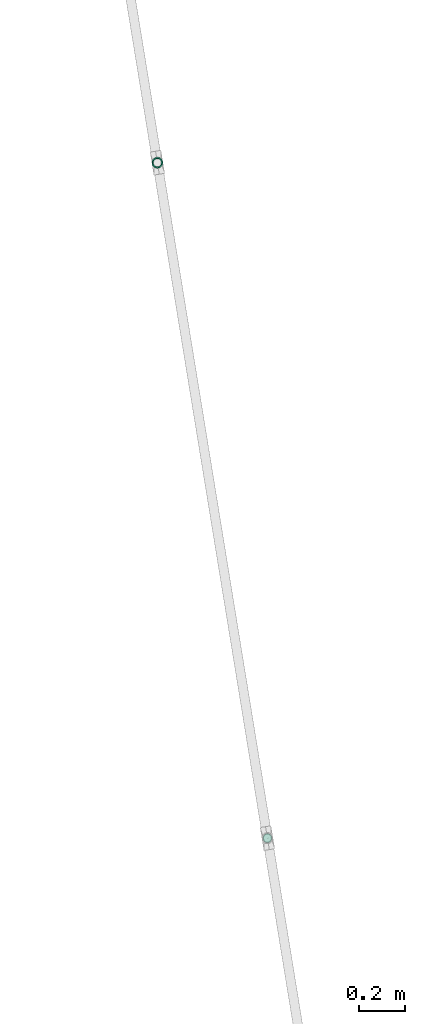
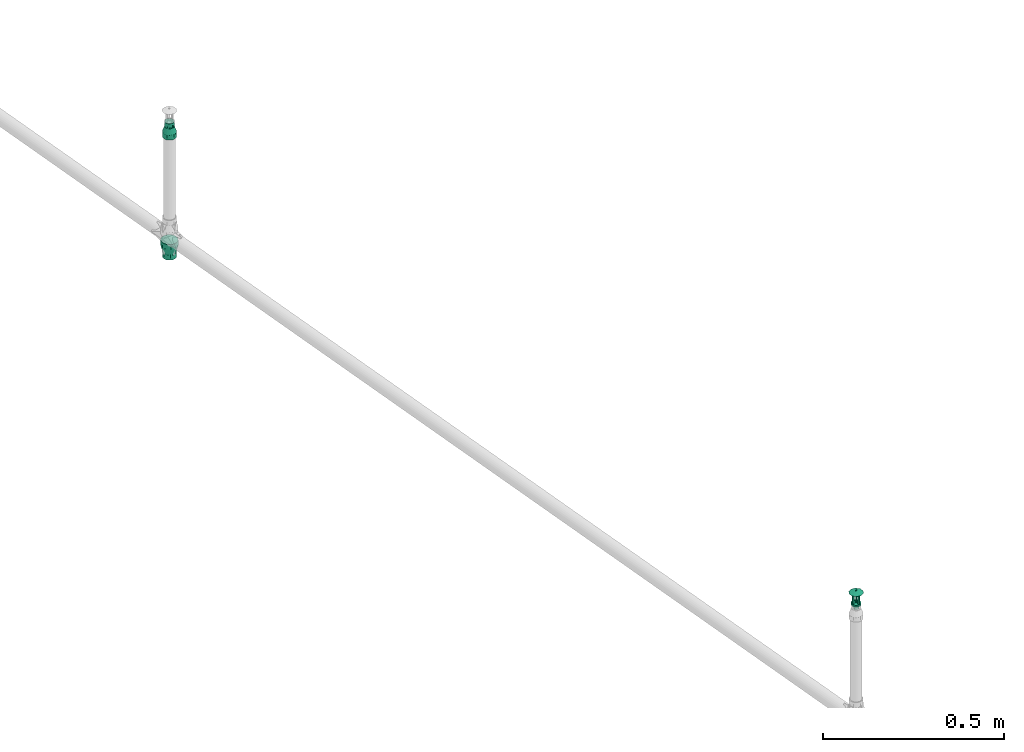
# One storey, part 36 of 56: 2 flow fittings, 1 flow terminal.
"""IFC2X3 building model written with IfcOpenShell, lengths in millimetres."""

from ifc_helpers import new_model, entity, si_unit, converted_unit, derived_unit, direction, frame, origin, origin_with_axes, place, context, subcontext, project, spatial, faceted_brep, source, transform, mapped, material, type_object, element, save


model = new_model("IFC2X3")

# Units and contexts
model_context = context("Model", 3, precision=0.01, world=origin(), true_north=direction((6.12323399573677e-17, 1.0)))
plan_context = context("Plan", 3, precision=1e-05, world=origin_with_axes())
body_context = subcontext(model_context, "Body", "Model", "MODEL_VIEW")
ifc_project = project(units=[converted_unit("PLANEANGLEUNIT", "DEGREE", entity("IfcPositiveLengthMeasure", 0.0174532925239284), si_unit("PLANEANGLEUNIT", "RADIAN"), dimensions=[0, 0, 0, 0, 0, 0, 0]), si_unit("AREAUNIT", "SQUARE_METRE"), si_unit("LENGTHUNIT", "METRE", prefix="MILLI"), si_unit("MASSUNIT", "GRAM", prefix="KILO"), si_unit("POWERUNIT", "WATT"), si_unit("PRESSUREUNIT", "PASCAL", prefix="KILO"), si_unit("FORCEUNIT", "NEWTON", prefix="KILO"), si_unit("ELECTRICVOLTAGEUNIT", "VOLT"), si_unit("ELECTRICCURRENTUNIT", "AMPERE"), si_unit("THERMODYNAMICTEMPERATUREUNIT", "DEGREE_CELSIUS"), si_unit("TIMEUNIT", "SECOND"), si_unit("VOLUMEUNIT", "CUBIC_METRE"), derived_unit("LINEARVELOCITYUNIT", [(si_unit("LENGTHUNIT", "METRE"), 1), (si_unit("TIMEUNIT", "SECOND"), -1)]), derived_unit("VOLUMETRICFLOWRATEUNIT", [(si_unit("VOLUMEUNIT", "CUBIC_METRE"), 1), (si_unit("TIMEUNIT", "SECOND"), -1)]), derived_unit("THERMALTRANSMITTANCEUNIT", [(si_unit("POWERUNIT", "WATT"), 1), (si_unit("THERMODYNAMICTEMPERATUREUNIT", "KELVIN"), -1), (si_unit("AREAUNIT", "SQUARE_METRE"), -1)]), derived_unit("SOUNDPRESSUREUNIT", [(si_unit("PRESSUREUNIT", "PASCAL"), 1)])], contexts=[model_context, plan_context])

# Site, building, storey
site_placement = place(None, frame((-3.09682673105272e-06, 1.93776733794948e-05, 0.0), z_axis=(0.0, 0.0, 1.0), x_axis=(-0.160806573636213, 0.986985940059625, 0.0)))
site = spatial("IfcSite", under=ifc_project, at=site_placement, Name="Default", CompositionType="ELEMENT")
building_placement = place(site_placement, frame((0.0, 0.0, 0.0), z_axis=(0.0, 0.0, 1.0), x_axis=(1.0, -2.77555756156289e-17, 0.0)))
building = spatial("IfcBuilding", under=site, at=building_placement, Name="Bygning (endres i Project Information)", CompositionType="ELEMENT")
storey_placement = place(building_placement, frame((0.0, 0.0, 51360.0000000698), z_axis=(0.0, 0.0, 1.0), x_axis=(1.0, -2.77555756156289e-17, 0.0)))
storey = spatial("IfcBuildingStorey", under=building, at=storey_placement, Name="H01-Nivå D+0,36", CompositionType="ELEMENT", Elevation=51360.0000000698)

# Flow fittings
ifc_material = material(Name="3320.001")
pipe_fitting_type_1 = type_object("IfcPipeFittingType", Name="RS_53_PIF_UN_Reducing-Socket-EN10241_MC_gen:RS_53_PIF_UN_Reducing-Socket-EN10241_MC_gen", PredefinedType="NOTDEFINED", material=ifc_material)
shared_shape_1 = source(origin(), body_context, "Body", "Brep", [
    faceted_brep([(0.0, 5.11167614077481, 19.0770350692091), (0.0, 9.87500000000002, 17.1040017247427), (0.0, 13.9653589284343, 13.9653589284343), (0.0, 17.1040017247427, 9.87499999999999), (0.0, 19.0770350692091, 5.11167614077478), (0.0, 19.75, 0.0), (0.0, 19.0770350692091, -5.1116761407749), (0.0, 17.1040017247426, -9.8750000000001), (0.0, 13.9653589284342, -13.9653589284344), (0.0, 9.87499999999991, -17.1040017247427), (0.0, 5.11167614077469, -19.0770350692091), (0.0, 0.0, -19.75), (0.0, -5.11167614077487, -19.0770350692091), (0.0, -9.87500000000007, -17.1040017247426), (0.0, -13.9653589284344, -13.9653589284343), (0.0, -17.1040017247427, -9.87499999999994), (0.0, -19.0770350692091, -5.11167614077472), (0.0, -19.75, 0.0), (0.0, -19.0770350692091, 5.11167614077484), (0.0, -17.1040017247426, 9.87500000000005), (0.0, -13.9653589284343, 13.9653589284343), (0.0, -9.87499999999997, 17.1040017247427), (0.0, -5.11167614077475, 19.0770350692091), (0.0, 0.0, 19.75), (17.0, -6.65118285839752, -18.277344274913), (17.0, -15.1289479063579, -12.6955675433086), (17.0, -16.8438814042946, -9.72538978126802), (17.0, -18.5588149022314, -6.7552120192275), (17.0, -9.87413131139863, -17.1045032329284), (17.0, -12.5015396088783, -14.9000353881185), (17.0, -19.1544074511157, -3.37760600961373), (17.0, -3.42823440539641, -19.4501853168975), (17.0, 3.43119786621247, -19.4496627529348), (17.0, 0.0014817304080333, -19.4499240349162), (17.0, -19.75, 0.0), (17.0, 6.65396758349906, -18.2763306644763), (17.0, 9.87673730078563, -17.1029985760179), (17.0, 18.5598439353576, -6.75238425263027), (17.0, 16.8453630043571, -9.7228232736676), (17.0, 15.1308820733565, -12.6932622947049), (17.0, 12.5038096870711, -14.8981304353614), (17.0, 19.75, 0.0), (17.0, 15.1308820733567, 12.6932622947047), (17.0, 16.8453630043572, 9.72282327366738), (17.0, 18.5598439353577, 6.75238425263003), (17.0, 9.87673730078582, 17.1029985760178), (17.0, 12.5038096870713, 14.8981304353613), (17.0, 3.43119786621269, 19.4496627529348), (17.0, 6.65396758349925, 18.2763306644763), (17.0, -3.4282344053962, 19.4501853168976), (17.0, 0.00148173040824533, 19.4499240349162), (17.0, -15.1289479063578, 12.6955675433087), (17.0, -6.65118285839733, 18.277344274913), (17.0, -9.87413131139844, 17.1045032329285), (17.0, -12.5015396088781, 14.9000353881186), (17.0, -19.1544074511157, 3.37760600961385), (17.0, -18.5588149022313, 6.75521201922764), (17.0, -16.8438814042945, 9.72538978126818), (34.0, 13.5000000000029, 0.0), (34.0, 12.6868795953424, -4.61444320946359), (34.0, -4.54589529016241, -12.4935366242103), (34.0, -2.34276817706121, -13.2951659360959), (34.0, 6.75195505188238, -11.6902139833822), (34.0, 0.00166747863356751, -13.2948718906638), (34.0, 2.34610313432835, -13.2945778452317), (34.0, 10.3432928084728, -8.67561489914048), (34.0, 8.54762393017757, -10.1829144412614), (34.0, 4.54902909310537, -12.492395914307), (34.0, 11.5150862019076, -6.64502905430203), (34.0, -6.74902240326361, -11.6919073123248), (34.0, -13.4999999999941, 0.0), (34.0, -13.0928608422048, -2.30881275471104), (34.0, -10.3411162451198, -8.6782091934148), (34.0, -8.54506932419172, -10.1850582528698), (34.0, -12.6857216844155, -4.61762550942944), (34.0, -11.5134189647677, -6.64791735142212), (34.0, -13.0928608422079, 2.30881275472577), (34.0, -12.6857216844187, 4.6176255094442), (34.0, 2.34610313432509, 13.2945778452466), (34.0, 4.54902909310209, 12.4923959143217), (34.0, -10.3411162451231, 8.67820919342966), (34.0, 0.00166747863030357, 13.2948718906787), (34.0, -6.74902240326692, 11.6919073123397), (34.0, -8.54506932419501, 10.1850582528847), (34.0, -11.5134189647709, 6.64791735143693), (34.0, -2.34276817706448, 13.2951659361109), (34.0, -4.5458952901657, 12.4935366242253), (34.0, 12.6868795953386, 4.61444320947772), (34.0, 11.5150862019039, 6.64502905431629), (34.0, 10.3432928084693, 8.67561489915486), (34.0, 6.7519550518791, 11.6902139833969), (34.0, 8.54762393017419, 10.1829144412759), (51.0, 3.49405710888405, -13.0399986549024), (51.0, 6.75000000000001, -11.6913429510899), (51.0, 9.5459415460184, -9.54594154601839), (51.0, 11.6913429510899, -6.74999999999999), (51.0, 13.0399986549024, -3.49405710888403), (51.0, 13.5, 0.0), (51.0, 13.0399986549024, 3.49405710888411), (51.0, 11.6913429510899, 6.75000000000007), (51.0, 9.54594154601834, 9.54594154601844), (51.0, 6.74999999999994, 11.69134295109), (51.0, 3.49405710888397, 13.0399986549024), (51.0, 0.0, 13.5), (51.0, -3.49405710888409, 13.0399986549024), (51.0, -6.75000000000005, 11.6913429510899), (51.0, -9.54594154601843, 9.54594154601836), (51.0, -11.6913429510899, 6.74999999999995), (51.0, -13.0399986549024, 3.49405710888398), (51.0, -13.5, 0.0), (51.0, -13.0399986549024, -3.49405710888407), (51.0, -11.6913429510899, -6.75000000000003), (51.0, -9.54594154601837, -9.54594154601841), (51.0, -6.74999999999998, -11.6913429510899), (51.0, -3.49405710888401, -13.0399986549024), (51.0, 0.0, -13.5)], [[[0, 1, 2, 3, 4, 5, 6, 7, 8, 9, 10, 11, 12, 13, 14, 15, 16, 17, 18, 19, 20, 21, 22, 23]], [[24, 13, 12]], [[15, 14, 25]], [[15, 25, 26, 27]], [[28, 29, 13]], [[16, 27, 30]], [[30, 17, 16]], [[15, 27, 16]], [[12, 31, 24]], [[25, 14, 29]], [[11, 32, 33, 31]], [[24, 28, 13]], [[13, 29, 14]], [[30, 34, 17]], [[32, 11, 10]], [[35, 9, 36]], [[7, 37, 38, 39]], [[9, 35, 10]], [[7, 6, 37]], [[8, 39, 40]], [[32, 10, 35]], [[7, 39, 8]], [[40, 36, 9]], [[6, 41, 37]], [[6, 5, 41]], [[11, 31, 12]], [[40, 9, 8]], [[41, 5, 4]], [[3, 2, 42]], [[3, 42, 43, 44]], [[45, 46, 1]], [[44, 41, 4]], [[0, 47, 48]], [[42, 2, 46]], [[23, 49, 50, 47]], [[1, 46, 2]], [[49, 23, 22]], [[19, 51, 20]], [[52, 21, 53]], [[3, 44, 4]], [[48, 45, 1]], [[54, 53, 21]], [[17, 34, 55]], [[21, 52, 22]], [[20, 51, 54]], [[49, 22, 52]], [[48, 1, 0]], [[17, 55, 18]], [[56, 19, 18]], [[18, 55, 56]], [[54, 21, 20]], [[57, 51, 19, 56]], [[23, 47, 0]], [[41, 58, 59]], [[60, 31, 61]], [[40, 62, 36]], [[63, 32, 64]], [[65, 39, 38]], [[64, 32, 35]], [[61, 33, 63]], [[37, 41, 59]], [[62, 40, 66]], [[40, 39, 66]], [[35, 36, 67]], [[65, 38, 68]], [[37, 68, 38]], [[64, 35, 67]], [[61, 31, 33]], [[69, 28, 24]], [[69, 24, 60]], [[70, 30, 71]], [[72, 29, 73]], [[30, 70, 34]], [[74, 27, 26]], [[68, 37, 59]], [[72, 25, 29]], [[27, 74, 71]], [[31, 60, 24]], [[29, 28, 73]], [[75, 26, 25]], [[67, 36, 62]], [[66, 39, 65]], [[27, 71, 30]], [[74, 26, 75]], [[73, 28, 69]], [[63, 33, 32]], [[75, 25, 72]], [[56, 76, 77]], [[48, 78, 79]], [[54, 51, 80]], [[81, 47, 50]], [[57, 56, 77]], [[52, 53, 82]], [[82, 53, 83]], [[55, 70, 76]], [[70, 55, 34]], [[84, 51, 57]], [[50, 85, 81]], [[56, 55, 76]], [[86, 49, 52]], [[83, 53, 54]], [[81, 78, 47]], [[48, 47, 78]], [[80, 51, 84]], [[49, 85, 50]], [[87, 44, 88]], [[87, 58, 41]], [[43, 42, 89]], [[57, 77, 84]], [[46, 45, 90]], [[85, 49, 86]], [[88, 44, 43]], [[54, 80, 83]], [[91, 42, 46]], [[52, 82, 86]], [[89, 42, 91]], [[87, 41, 44]], [[90, 45, 79]], [[46, 90, 91]], [[79, 45, 48]], [[43, 89, 88]], [[92, 93, 94, 95, 96, 97, 98, 99, 100, 101, 102, 103, 104, 105, 106, 107, 108, 109, 110, 111, 112, 113, 114, 115]], [[58, 97, 96]], [[95, 94, 65]], [[95, 65, 68, 59]], [[62, 66, 93]], [[59, 58, 96]], [[92, 64, 67]], [[65, 94, 66]], [[115, 61, 63, 64]], [[93, 66, 94]], [[67, 93, 92]], [[67, 62, 93]], [[95, 59, 96]], [[114, 61, 115]], [[111, 110, 74]], [[73, 113, 112]], [[109, 71, 110]], [[111, 74, 75, 72]], [[109, 70, 71]], [[60, 61, 114]], [[113, 69, 60]], [[111, 72, 112]], [[113, 60, 114]], [[112, 72, 73]], [[115, 64, 92]], [[71, 74, 110]], [[73, 69, 113]], [[86, 105, 104]], [[107, 106, 80]], [[107, 80, 84, 77]], [[82, 83, 105]], [[108, 77, 76]], [[76, 70, 109]], [[76, 109, 108]], [[104, 85, 86]], [[80, 106, 83]], [[103, 78, 81, 85]], [[91, 101, 100]], [[105, 83, 106]], [[86, 82, 105]], [[78, 103, 102]], [[79, 101, 90]], [[99, 87, 88, 89]], [[101, 79, 102]], [[99, 98, 87]], [[100, 89, 91]], [[78, 102, 79]], [[103, 85, 104]], [[99, 89, 100]], [[98, 58, 87]], [[107, 77, 108]], [[98, 97, 58]], [[91, 90, 101]]]),
])
flow_fitting_1_placement = place(storey_placement, frame((1000236.26325463, -389286.663841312, 3707.99999993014), z_axis=(2.77555756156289e-17, 1.0, 0.0), x_axis=(0.0, 0.0, 1.0)))
element("IfcFlowFitting", 1, at=flow_fitting_1_placement, inside=storey, type_object=pipe_fitting_type_1, material=ifc_material, Name="RS_53_PIF_UN_Reducing-Socket-EN10241_MC_gen:RS_53_PIF_UN_Reducing-Socket-EN10241_MC_gen", ObjectType="RS_53_PIF_UN_Reducing-Socket-EN10241_MC_gen:RS_53_PIF_UN_Reducing-Socket-EN10241_MC_gen", context=body_context, shape_type="MappedRepresentation", body=[
    mapped(shared_shape_1, transform((0.0, 0.0, 0.0), scale=1.0)),
])
pipe_fitting_type_2 = type_object("IfcPipeFittingType", Name="RS_53_PIF_UN_Reducing-Socket-EN10241_MC_gen:RS_53_PIF_UN_Reducing-Socket-EN10241_MC_gen", PredefinedType="NOTDEFINED", material=ifc_material)
shared_shape_2 = source(origin(), body_context, "Body", "Brep", [
    faceted_brep([(0.0, -12.25, 21.2176223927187), (0.0, -6.34106660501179, 23.6651827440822), (0.0, 0.0, 24.5), (0.0, 6.34106660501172, 23.6651827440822), (0.0, 12.25, 21.2176223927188), (0.0, 17.3241161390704, 17.3241161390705), (0.0, 21.2176223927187, 12.2500000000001), (0.0, 23.6651827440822, 6.34106660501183), (0.0, 24.5, 0.0), (0.0, 23.6651827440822, -6.34106660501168), (0.0, 21.2176223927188, -12.2499999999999), (0.0, 17.3241161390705, -17.3241161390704), (0.0, 12.2500000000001, -21.2176223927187), (0.0, 6.34106660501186, -23.6651827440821), (0.0, 0.0, -24.5), (0.0, -6.34106660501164, -23.6651827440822), (0.0, -12.2499999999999, -21.2176223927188), (0.0, -17.3241161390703, -17.3241161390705), (0.0, -21.2176223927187, -12.2500000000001), (0.0, -23.6651827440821, -6.34106660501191), (0.0, -24.5, 0.0), (0.0, -23.6651827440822, 6.34106660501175), (0.0, -21.2176223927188, 12.25), (0.0, -17.3241161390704, 17.3241161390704), (18.6666666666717, 8.25137606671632, -22.6729794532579), (18.6666666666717, 18.7677686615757, -15.7486780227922), (18.6666666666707, 20.8950763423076, -12.0642027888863), (18.6666666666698, 23.0223840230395, -8.37972755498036), (18.6666666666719, 15.5085607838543, -18.4833370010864), (18.6666666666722, 12.2493529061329, -21.2179959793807), (18.6666666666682, 23.7611920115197, -4.18986377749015), (18.6666666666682, 23.7125607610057, -4.46565710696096), (18.6666666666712, 4.25339922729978, -24.1279629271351), (18.6666666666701, -0.00110376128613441, -24.1277682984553), (18.6666666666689, -4.25560674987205, -24.1275736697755), (18.6666666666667, 24.5, 0.0), (18.6666666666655, -12.2512941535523, -21.2168751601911), (18.6666666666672, -8.25345045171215, -22.6722244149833), (18.6666666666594, -20.8961800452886, -12.062290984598), (18.6666666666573, -23.0231506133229, -8.37762113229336), (18.6666666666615, -18.7692094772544, -15.7469608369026), (18.6666666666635, -15.5102518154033, -18.4819179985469), (18.6666666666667, -24.5, 0.0), (18.6666666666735, -18.7692094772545, 15.7469608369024), (18.666666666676, -20.8961800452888, 12.0622909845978), (18.6666666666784, -23.023150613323, 8.3776211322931), (18.6666666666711, -15.5102518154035, 18.4819179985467), (18.6666666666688, -12.2512941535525, 21.216875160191), (18.6666666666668, -8.25345045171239, 22.6722244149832), (18.6666666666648, -4.25560674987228, 24.1275736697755), (18.6666666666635, -0.00110376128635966, 24.1277682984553), (18.6666666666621, 4.25339922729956, 24.1279629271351), (18.6666666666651, 23.7611920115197, 4.1898637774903), (18.666666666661, 12.2493529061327, 21.2179959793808), (18.6666666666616, 8.25137606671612, 22.672979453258), (18.6666666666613, 15.5085607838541, 18.4833370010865), (18.6666666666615, 18.7677686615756, 15.7486780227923), (18.6666666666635, 23.0223840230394, 8.37972755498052), (18.6666666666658, 23.7125607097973, 4.46565739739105), (18.6666666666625, 20.8950763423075, 12.0642027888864), (37.3333333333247, -18.5595959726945, -6.75306577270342), (37.3333333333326, -19.750000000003, 0.0), (37.3333333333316, -9.87626627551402, -17.1032705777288), (37.3333333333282, -15.1304742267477, -12.6937484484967), (37.3333333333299, -12.5033702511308, -14.8985095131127), (37.3333333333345, -3.43075149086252, -19.4497414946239), (37.333333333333, -6.65350888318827, -18.2765060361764), (37.3333333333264, -16.8450350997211, -9.72340711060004), (37.3333333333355, -0.00107998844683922, -19.4499319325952), (37.3333333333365, 3.42859151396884, -19.4501223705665), (37.3333333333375, 9.87436684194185, -17.1043672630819), (37.333333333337, 6.65147917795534, -18.2772448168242), (37.3333333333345, 19.1544229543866, -3.37756341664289), (37.3333333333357, 18.558845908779, -6.75512683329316), (37.3333333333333, 19.7499999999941, 0.0), (37.3333333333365, 16.8439551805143, -9.72527774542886), (37.3333333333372, 15.1290644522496, -12.6954286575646), (37.3333333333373, 12.5017156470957, -14.8998979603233), (37.3333333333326, 19.1544229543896, 3.37756341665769), (37.3333333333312, 18.5588459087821, 6.755126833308), (37.3333333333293, 15.1290644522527, 12.6954286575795), (37.3333333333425, -16.8450350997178, 9.72340711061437), (37.3333333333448, -18.559595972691, 6.75306577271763), (37.3333333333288, 9.87436684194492, 17.104367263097), (37.3333333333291, 12.5017156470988, 14.8998979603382), (37.3333333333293, 6.65147917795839, 18.2772448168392), (37.3333333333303, 16.8439551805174, 9.72527774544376), (37.3333333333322, -3.43075149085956, 19.4497414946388), (37.333333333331, -0.00107998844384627, 19.4499319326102), (37.3333333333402, -15.1304742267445, 12.6937484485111), (37.333333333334, -6.65350888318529, 18.2765060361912), (37.3333333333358, -9.87626627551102, 17.1032705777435), (37.333333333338, -12.5033702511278, 14.8985095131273), (37.3333333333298, 3.42859151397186, 19.4501223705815), (56.0, 0.0, -19.75), (56.0, 5.11167614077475, -19.0770350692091), (56.0, 9.87499999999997, -17.1040017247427), (56.0, 13.9653589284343, -13.9653589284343), (56.0, 17.1040017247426, -9.87500000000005), (56.0, 19.0770350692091, -5.11167614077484), (56.0, 19.75, 0.0), (56.0, 19.0770350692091, 5.11167614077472), (56.0, 17.1040017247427, 9.87499999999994), (56.0, 13.9653589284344, 13.9653589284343), (56.0, 9.87500000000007, 17.1040017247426), (56.0, 5.11167614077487, 19.0770350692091), (56.0, 0.0, 19.75), (56.0, -5.11167614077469, 19.0770350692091), (56.0, -9.87499999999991, 17.1040017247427), (56.0, -13.9653589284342, 13.9653589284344), (56.0, -17.1040017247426, 9.8750000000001), (56.0, -19.0770350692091, 5.1116761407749), (56.0, -19.75, 0.0), (56.0, -19.0770350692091, -5.11167614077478), (56.0, -17.1040017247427, -9.87499999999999), (56.0, -13.9653589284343, -13.9653589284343), (56.0, -9.87500000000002, -17.1040017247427), (56.0, -5.11167614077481, -19.0770350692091)], [[[0, 1, 2, 3, 4, 5, 6, 7, 8, 9, 10, 11, 12, 13, 14, 15, 16, 17, 18, 19, 20, 21, 22, 23]], [[13, 12, 24]], [[25, 11, 10]], [[26, 25, 10, 27]], [[12, 28, 29]], [[9, 30, 31, 27]], [[9, 8, 30]], [[9, 27, 10]], [[24, 32, 13]], [[28, 11, 25]], [[33, 34, 14, 32]], [[12, 29, 24]], [[11, 28, 12]], [[8, 35, 30]], [[15, 14, 34]], [[36, 16, 37]], [[38, 39, 18, 40]], [[15, 37, 16]], [[39, 19, 18]], [[41, 40, 17]], [[37, 15, 34]], [[17, 40, 18]], [[16, 36, 41]], [[39, 42, 19]], [[42, 20, 19]], [[13, 32, 14]], [[17, 16, 41]], [[21, 20, 42]], [[43, 23, 22]], [[44, 43, 22, 45]], [[0, 46, 47]], [[21, 42, 45]], [[48, 49, 1]], [[46, 23, 43]], [[50, 51, 2, 49]], [[23, 46, 0]], [[3, 2, 51]], [[1, 49, 2]], [[7, 52, 8]], [[53, 4, 54]], [[1, 0, 48]], [[5, 4, 55]], [[8, 52, 35]], [[21, 45, 22]], [[3, 54, 4]], [[55, 56, 5]], [[54, 3, 51]], [[0, 47, 48]], [[5, 56, 6]], [[7, 6, 57]], [[7, 57, 58, 52]], [[4, 53, 55]], [[6, 56, 59, 57]], [[60, 61, 42]], [[36, 62, 41]], [[63, 40, 64]], [[63, 38, 40]], [[65, 37, 34]], [[66, 37, 65]], [[60, 42, 39]], [[67, 38, 63]], [[64, 40, 41]], [[66, 36, 37]], [[64, 41, 62]], [[38, 67, 39]], [[68, 33, 69]], [[33, 32, 69]], [[29, 70, 24]], [[71, 69, 32]], [[72, 31, 30, 35]], [[26, 27, 73]], [[35, 74, 72]], [[73, 75, 26]], [[28, 25, 76]], [[76, 77, 28]], [[71, 24, 70]], [[71, 32, 24]], [[29, 77, 70]], [[25, 75, 76]], [[28, 77, 29]], [[26, 75, 25]], [[27, 31, 73]], [[72, 73, 31]], [[62, 36, 66]], [[34, 33, 68]], [[65, 34, 68]], [[60, 39, 67]], [[78, 58, 79]], [[56, 55, 80]], [[81, 45, 82]], [[57, 59, 79]], [[53, 54, 83]], [[84, 80, 55]], [[78, 35, 52, 58]], [[58, 57, 79]], [[55, 53, 84]], [[54, 51, 85]], [[74, 35, 78]], [[59, 56, 86]], [[53, 83, 84]], [[87, 88, 49]], [[87, 49, 48]], [[86, 79, 59]], [[85, 83, 54]], [[50, 49, 88]], [[42, 61, 82]], [[89, 43, 44]], [[48, 47, 90]], [[91, 47, 46]], [[56, 80, 86]], [[44, 45, 81]], [[90, 87, 48]], [[46, 43, 92]], [[90, 47, 91]], [[93, 51, 50]], [[82, 45, 42]], [[51, 93, 85]], [[81, 89, 44]], [[88, 93, 50]], [[92, 91, 46]], [[92, 43, 89]], [[94, 95, 96, 97, 98, 99, 100, 101, 102, 103, 104, 105, 106, 107, 108, 109, 110, 111, 112, 113, 114, 115, 116, 117]], [[113, 112, 61]], [[63, 115, 114]], [[67, 63, 114, 60]], [[116, 64, 62]], [[113, 61, 60]], [[66, 65, 117]], [[64, 115, 63]], [[68, 69, 94, 65]], [[115, 64, 116]], [[69, 95, 94]], [[96, 70, 77]], [[117, 116, 66]], [[71, 70, 96]], [[73, 99, 98]], [[95, 71, 96]], [[117, 65, 94]], [[113, 60, 114]], [[74, 100, 72]], [[95, 69, 71]], [[97, 76, 98]], [[77, 76, 97]], [[97, 96, 77]], [[75, 73, 98, 76]], [[99, 72, 100]], [[116, 62, 66]], [[99, 73, 72]], [[105, 104, 85]], [[80, 103, 102]], [[86, 80, 102, 79]], [[104, 84, 83]], [[78, 79, 101]], [[101, 100, 78]], [[101, 79, 102]], [[85, 93, 105]], [[84, 103, 80]], [[88, 87, 106, 93]], [[104, 83, 85]], [[103, 84, 104]], [[100, 74, 78]], [[107, 106, 87]], [[91, 108, 90]], [[81, 82, 110, 89]], [[107, 90, 108]], [[82, 111, 110]], [[92, 89, 109]], [[90, 107, 87]], [[109, 89, 110]], [[108, 91, 92]], [[82, 61, 111]], [[61, 112, 111]], [[105, 93, 106]], [[109, 108, 92]]]),
])
flow_fitting_2_placement = place(storey_placement, frame((1000236.26325463, -389286.663841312, 3359.06666666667), z_axis=(1.0, -2.77555756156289e-17, 0.0), x_axis=(0.0, 0.0, -1.0)))
element("IfcFlowFitting", 2, at=flow_fitting_2_placement, inside=storey, type_object=pipe_fitting_type_2, material=ifc_material, Name="RS_53_PIF_UN_Reducing-Socket-EN10241_MC_gen:RS_53_PIF_UN_Reducing-Socket-EN10241_MC_gen", ObjectType="RS_53_PIF_UN_Reducing-Socket-EN10241_MC_gen:RS_53_PIF_UN_Reducing-Socket-EN10241_MC_gen", context=body_context, shape_type="MappedRepresentation", body=[
    mapped(shared_shape_2, transform((0.0, 0.0, 0.0), scale=1.0)),
])

# Flow terminal
fire_suppression_terminal_type = type_object("IfcFireSuppressionTerminalType", Name="SU-15-K80-68DGR-STD:SU-15-K80-68DGR-STD", PredefinedType="NOTDEFINED", material=ifc_material)
shared_shape_3 = source(origin(), body_context, "Body", "Brep", [
    faceted_brep([(-2.5, 0.0, 62.0), (0.0, -2.5, 62.0), (2.5, 0.0, 62.0), (0.0, 2.5, 62.0), (-2.5, 0.0, 59.0), (0.0, 2.5, 59.0), (2.5, 0.0, 59.0), (0.0, -2.5, 59.0)], [[[0, 1, 2, 3]], [[4, 5, 6, 7]], [[0, 4, 7, 1]], [[7, 6, 2, 1]], [[2, 6, 5, 3]], [[5, 4, 0, 3]]]),
    faceted_brep([(1.0, -13.5, 47.0), (1.0, -13.5, 19.0), (1.0, -8.5, 19.0), (1.0, -8.5, 42.0), (1.0, 8.5, 42.0), (1.0, 8.5, 19.0), (1.0, 13.5, 19.0), (1.0, 13.5, 47.0), (-1.0, -13.5, 47.0), (-1.0, 13.5, 47.0), (-1.0, 13.5, 19.0), (-1.0, 8.5, 19.0), (-1.0, 8.5, 42.0), (-1.0, -8.5, 42.0), (-1.0, -8.5, 19.0), (-1.0, -13.5, 19.0)], [[[0, 1, 2, 3, 4, 5, 6, 7]], [[8, 9, 10, 11, 12, 13, 14, 15]], [[1, 0, 8, 15]], [[2, 1, 15, 14]], [[3, 2, 14, 13]], [[4, 3, 13, 12]], [[5, 4, 12, 11]], [[6, 5, 11, 10]], [[7, 6, 10, 9]], [[0, 7, 9, 8]]]),
    faceted_brep([(-13.5, 1.0, 47.0), (13.5, 1.0, 47.0), (13.5, 1.0, 19.0), (8.5, 1.0, 19.0), (8.5, 1.0, 42.0), (-8.5, 1.0, 42.0), (-8.5, 1.0, 19.0), (-13.5, 1.0, 19.0), (-13.5, -1.0, 47.0), (-13.5, -1.0, 19.0), (-8.5, -1.0, 19.0), (-8.5, -1.0, 42.0), (8.5, -1.0, 42.0), (8.5, -1.0, 19.0), (13.5, -1.0, 19.0), (13.5, -1.0, 47.0)], [[[0, 1, 2, 3, 4, 5, 6, 7]], [[8, 9, 10, 11, 12, 13, 14, 15]], [[1, 0, 8, 15]], [[2, 1, 15, 14]], [[3, 2, 14, 13]], [[4, 3, 13, 12]], [[5, 4, 12, 11]], [[6, 5, 11, 10]], [[7, 6, 10, 9]], [[0, 7, 9, 8]]]),
    faceted_brep([(0.0, 2.5, 59.0), (-2.5, 0.0, 59.0), (0.0, -2.5, 59.0), (2.5, 0.0, 59.0), (6.4893568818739, 19.9721868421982, 53.0), (16.9893568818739, 12.3434902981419, 53.0), (21.0, 0.0, 53.0), (16.989356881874, -12.3434902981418, 53.0), (6.48935688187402, -19.9721868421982, 53.0), (-6.48935688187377, -19.9721868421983, 53.0), (-16.9893568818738, -12.343490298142, 53.0), (-21.0, 0.0, 53.0), (-16.9893568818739, 12.3434902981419, 53.0), (-6.48935688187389, 19.9721868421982, 53.0)], [[[0, 1, 2, 3]], [[4, 5, 6, 7, 8, 9, 10, 11, 12, 13]], [[6, 3, 7]], [[2, 8, 7]], [[7, 3, 2]], [[2, 1, 10]], [[2, 10, 9]], [[10, 1, 11]], [[2, 9, 8]], [[11, 1, 12]], [[0, 13, 12]], [[12, 1, 0]], [[0, 3, 5]], [[0, 5, 4]], [[5, 3, 6]], [[0, 4, 13]]]),
    faceted_brep([(-2.5, 0.0, 53.0), (0.0, -2.5, 53.0), (2.5, 0.0, 53.0), (0.0, 2.5, 53.0), (-2.5, 0.0, 19.0), (0.0, 2.5, 19.0), (2.5, 0.0, 19.0), (0.0, -2.5, 19.0)], [[[0, 1, 2, 3]], [[4, 5, 6, 7]], [[0, 4, 7, 1]], [[7, 6, 2, 1]], [[2, 6, 5, 3]], [[5, 4, 0, 3]]]),
    faceted_brep([(3.62346663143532, -13.5229615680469, 19.0), (7.0, -12.1243556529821, 19.0), (9.89949493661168, -9.89949493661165, 19.0), (12.1243556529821, -7.0, 19.0), (13.522961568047, -3.62346663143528, 19.0), (14.0, 0.0, 19.0), (13.522961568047, 3.62346663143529, 19.0), (12.1243556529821, 7.0, 19.0), (9.89949493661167, 9.89949493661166, 19.0), (7.0, 12.1243556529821, 19.0), (3.62346663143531, 13.522961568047, 19.0), (0.0, 14.0, 19.0), (-3.62346663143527, 13.522961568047, 19.0), (-7.0, 12.1243556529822, 19.0), (-9.89949493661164, 9.89949493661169, 19.0), (-12.1243556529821, 7.0, 19.0), (-13.5229615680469, 3.62346663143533, 19.0), (-14.0, 0.0, 19.0), (-13.5229615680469, -3.62346663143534, 19.0), (-12.1243556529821, -7.0, 19.0), (-9.89949493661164, -9.89949493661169, 19.0), (-7.0, -12.1243556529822, 19.0), (-3.62346663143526, -13.522961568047, 19.0), (0.0, -14.0, 19.0), (9.89949493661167, 9.89949493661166, 13.0), (12.1243556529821, 7.0, 13.0), (13.522961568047, 3.62346663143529, 13.0), (14.0, 0.0, 13.0), (13.522961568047, -3.62346663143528, 13.0), (12.1243556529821, -7.0, 13.0), (9.89949493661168, -9.89949493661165, 13.0), (7.0, -12.1243556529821, 13.0), (3.62346663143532, -13.5229615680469, 13.0), (0.0, -14.0, 13.0), (-3.62346663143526, -13.522961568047, 13.0), (-7.0, -12.1243556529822, 13.0), (-9.89949493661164, -9.89949493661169, 13.0), (-12.1243556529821, -7.0, 13.0), (-13.5229615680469, -3.62346663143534, 13.0), (-14.0, 0.0, 13.0), (-13.5229615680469, 3.62346663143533, 13.0), (-12.1243556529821, 7.0, 13.0), (-9.89949493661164, 9.89949493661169, 13.0), (-7.0, 12.1243556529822, 13.0), (-3.62346663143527, 13.522961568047, 13.0), (0.0, 14.0, 13.0), (3.62346663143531, 13.522961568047, 13.0), (7.0, 12.1243556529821, 13.0)], [[[0, 1, 2, 3, 4, 5, 6, 7, 8, 9, 10, 11, 12, 13, 14, 15, 16, 17, 18, 19, 20, 21, 22, 23]], [[24, 25, 26, 27, 28, 29, 30, 31, 32, 33, 34, 35, 36, 37, 38, 39, 40, 41, 42, 43, 44, 45, 46, 47]], [[38, 18, 17, 39]], [[37, 19, 18, 38]], [[21, 20, 36, 35]], [[37, 36, 20, 19]], [[22, 21, 35, 34]], [[23, 22, 34, 33]], [[32, 0, 23, 33]], [[31, 1, 0, 32]], [[3, 2, 30, 29]], [[31, 30, 2, 1]], [[4, 3, 29, 28]], [[5, 4, 28, 27]], [[26, 6, 5, 27]], [[25, 7, 6, 26]], [[9, 8, 24, 47]], [[25, 24, 8, 7]], [[10, 9, 47, 46]], [[11, 10, 46, 45]], [[44, 12, 11, 45]], [[43, 13, 12, 44]], [[15, 14, 42, 41]], [[43, 42, 14, 13]], [[16, 15, 41, 40]], [[17, 16, 40, 39]]]),
    faceted_brep([(1.94114283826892, -7.24444369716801, 13.0), (3.75000000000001, -6.49519052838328, 13.0), (5.30330085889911, -5.3033008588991, 13.0), (6.49519052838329, -3.75, 13.0), (7.24444369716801, -1.9411428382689, 13.0), (7.5, 0.0, 13.0), (7.24444369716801, 1.9411428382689, 13.0), (6.49519052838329, 3.75, 13.0), (5.30330085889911, 5.3033008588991, 13.0), (3.75000000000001, 6.49519052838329, 13.0), (1.94114283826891, 7.24444369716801, 13.0), (0.0, 7.5, 13.0), (-1.94114283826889, 7.24444369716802, 13.0), (-3.74999999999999, 6.4951905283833, 13.0), (-5.3033008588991, 5.30330085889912, 13.0), (-6.49519052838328, 3.75000000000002, 13.0), (-7.24444369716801, 1.94114283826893, 13.0), (-7.5, 0.0, 13.0), (-7.244443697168, -1.94114283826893, 13.0), (-6.49519052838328, -3.75000000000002, 13.0), (-5.30330085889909, -5.30330085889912, 13.0), (-3.74999999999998, -6.4951905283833, 13.0), (-1.94114283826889, -7.24444369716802, 13.0), (0.0, -7.5, 13.0), (5.30330085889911, 5.3033008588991, 0.0), (6.49519052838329, 3.75, 0.0), (7.24444369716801, 1.9411428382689, 0.0), (7.5, 0.0, 0.0), (7.24444369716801, -1.9411428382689, 0.0), (6.49519052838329, -3.75, 0.0), (5.30330085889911, -5.3033008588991, 0.0), (3.75000000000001, -6.49519052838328, 0.0), (1.94114283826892, -7.24444369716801, 0.0), (0.0, -7.5, 0.0), (-1.94114283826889, -7.24444369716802, 0.0), (-3.74999999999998, -6.4951905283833, 0.0), (-5.30330085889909, -5.30330085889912, 0.0), (-6.49519052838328, -3.75000000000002, 0.0), (-7.244443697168, -1.94114283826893, 0.0), (-7.5, 0.0, 0.0), (-7.24444369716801, 1.94114283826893, 0.0), (-6.49519052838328, 3.75000000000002, 0.0), (-5.3033008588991, 5.30330085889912, 0.0), (-3.74999999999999, 6.4951905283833, 0.0), (-1.94114283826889, 7.24444369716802, 0.0), (0.0, 7.5, 0.0), (1.94114283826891, 7.24444369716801, 0.0), (3.75000000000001, 6.49519052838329, 0.0)], [[[0, 1, 2, 3, 4, 5, 6, 7, 8, 9, 10, 11, 12, 13, 14, 15, 16, 17, 18, 19, 20, 21, 22, 23]], [[24, 25, 26, 27, 28, 29, 30, 31, 32, 33, 34, 35, 36, 37, 38, 39, 40, 41, 42, 43, 44, 45, 46, 47]], [[38, 18, 17, 39]], [[37, 19, 18, 38]], [[21, 20, 36, 35]], [[37, 36, 20, 19]], [[22, 21, 35, 34]], [[23, 22, 34, 33]], [[32, 0, 23, 33]], [[31, 1, 0, 32]], [[3, 2, 30, 29]], [[31, 30, 2, 1]], [[4, 3, 29, 28]], [[5, 4, 28, 27]], [[26, 6, 5, 27]], [[25, 7, 6, 26]], [[9, 8, 24, 47]], [[25, 24, 8, 7]], [[10, 9, 47, 46]], [[11, 10, 46, 45]], [[44, 12, 11, 45]], [[43, 13, 12, 44]], [[15, 14, 42, 41]], [[43, 42, 14, 13]], [[16, 15, 41, 40]], [[17, 16, 40, 39]]]),
])
flow_terminal_placement = place(storey_placement, frame((997236.263254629, -389286.663841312, 3741.99999993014), z_axis=(0.0, 0.0, 1.0), x_axis=(-1.0, 2.77555756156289e-17, 0.0)))
element("IfcFlowTerminal", 3, at=flow_terminal_placement, inside=storey, type_object=fire_suppression_terminal_type, material=ifc_material, Name="SU-15-K80-68DGR-STD:SU-15-K80-68DGR-STD", ObjectType="SU-15-K80-68DGR-STD:SU-15-K80-68DGR-STD", context=body_context, shape_type="MappedRepresentation", body=[
    mapped(shared_shape_3, transform((0.0, 0.0, 0.0), scale=1.0)),
])

save(model, "model.ifc")
